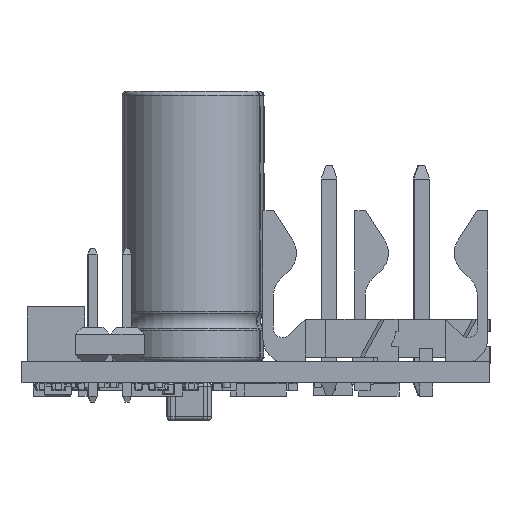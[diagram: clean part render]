
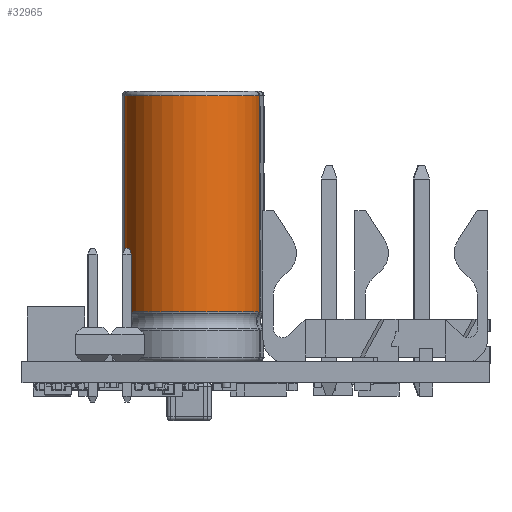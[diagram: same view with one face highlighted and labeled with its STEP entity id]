
A CAD part, left-side view. The second image highlights one B-rep face of the part: STEP entity #32965.
In plain terms, the highlighted cylindrical face has radius 5 mm (diameter 10 mm), a partial arc.
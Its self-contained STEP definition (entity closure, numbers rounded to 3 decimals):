
#3607=FACE_OUTER_BOUND('',#6106,.T.);
#6106=EDGE_LOOP('',(#25884,#25885,#25886,#25887));
#8325=LINE('',#51204,#11157);
#8336=LINE('',#51274,#11168);
#11157=VECTOR('',#42444,1.);
#11168=VECTOR('',#42515,1.);
#13619=CIRCLE('',#36110,5.);
#13620=CIRCLE('',#36112,5.);
#15414=VERTEX_POINT('',#51200);
#15416=VERTEX_POINT('',#51203);
#15437=VERTEX_POINT('',#51254);
#15445=VERTEX_POINT('',#51272);
#19091=EDGE_CURVE('',#15416,#15414,#8325,.T.);
#19127=EDGE_CURVE('',#15437,#15445,#8336,.T.);
#19131=EDGE_CURVE('',#15437,#15414,#13619,.T.);
#19132=EDGE_CURVE('',#15416,#15445,#13620,.T.);
#25884=ORIENTED_EDGE('',*,*,#19091,.T.);
#25885=ORIENTED_EDGE('',*,*,#19131,.F.);
#25886=ORIENTED_EDGE('',*,*,#19127,.T.);
#25887=ORIENTED_EDGE('',*,*,#19132,.F.);
#30546=CYLINDRICAL_SURFACE('',#36111,5.);
#32965=ADVANCED_FACE('',(#3607),#30546,.T.);
#36110=AXIS2_PLACEMENT_3D('',#51283,#42532,#42533);
#36111=AXIS2_PLACEMENT_3D('',#51284,#42534,#42535);
#36112=AXIS2_PLACEMENT_3D('',#51285,#42536,#42537);
#42444=DIRECTION('',(0.,0.,1.));
#42515=DIRECTION('',(0.,0.,-1.));
#42532=DIRECTION('center_axis',(0.,0.,1.));
#42533=DIRECTION('ref_axis',(-1.,0.,0.));
#42534=DIRECTION('center_axis',(0.,0.,1.));
#42535=DIRECTION('ref_axis',(-1.,0.,0.));
#42536=DIRECTION('center_axis',(0.,0.,-1.));
#42537=DIRECTION('ref_axis',(1.,0.,0.));
#51200=CARTESIAN_POINT('',(4.938,-0.782,19.667));
#51203=CARTESIAN_POINT('',(4.938,-0.782,3.702));
#51204=CARTESIAN_POINT('',(4.938,-0.782,10.));
#51254=CARTESIAN_POINT('',(4.938,0.782,19.667));
#51272=CARTESIAN_POINT('',(4.938,0.782,3.702));
#51274=CARTESIAN_POINT('',(4.938,0.782,10.));
#51283=CARTESIAN_POINT('Origin',(0.,0.,19.667));
#51284=CARTESIAN_POINT('Origin',(0.,0.,10.));
#51285=CARTESIAN_POINT('Origin',(0.,0.,3.702));
